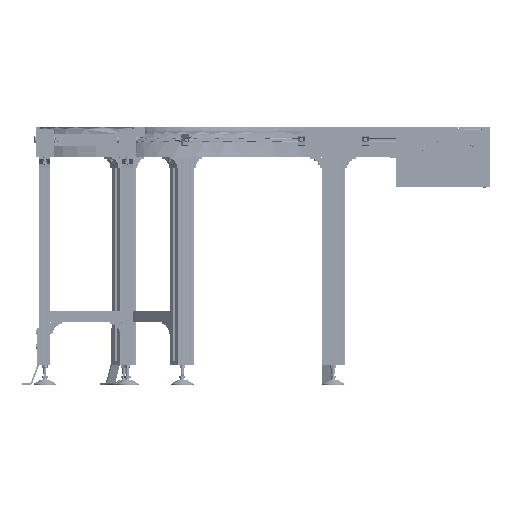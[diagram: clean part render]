
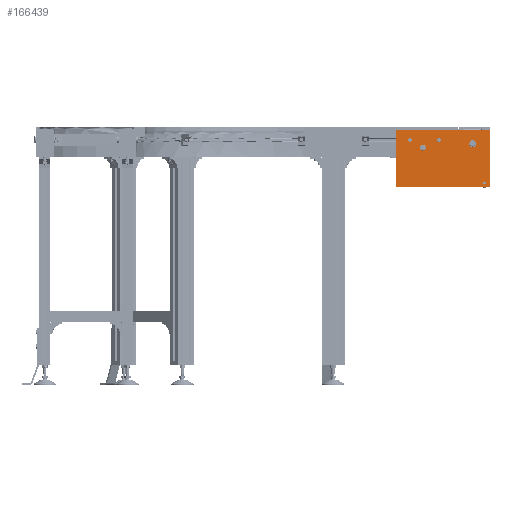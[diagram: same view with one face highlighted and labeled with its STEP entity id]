
A CAD part, left-side view. The second image highlights one B-rep face of the part: STEP entity #166439.
In plain terms, the highlighted planar face has unit normal (-1, 0, 0).
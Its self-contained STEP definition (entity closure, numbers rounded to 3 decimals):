
#7932=LINE('',#253353,#24029);
#7944=LINE('',#253389,#24041);
#7945=LINE('',#253391,#24042);
#7946=LINE('',#253392,#24043);
#24029=VECTOR('',#202781,330.);
#24041=VECTOR('',#202807,200.);
#24042=VECTOR('',#202808,200.);
#24043=VECTOR('',#202809,330.);
#36195=PLANE('',#177064);
#42484=FACE_BOUND('',#55768,.T.);
#42485=FACE_BOUND('',#55769,.T.);
#42486=FACE_BOUND('',#55770,.T.);
#42487=FACE_BOUND('',#55771,.T.);
#42488=FACE_BOUND('',#55772,.T.);
#46531=FACE_OUTER_BOUND('',#55767,.T.);
#55767=EDGE_LOOP('',(#122288,#122289,#122290,#122291));
#55768=EDGE_LOOP('',(#122292));
#55769=EDGE_LOOP('',(#122293));
#55770=EDGE_LOOP('',(#122294));
#55771=EDGE_LOOP('',(#122295));
#55772=EDGE_LOOP('',(#122296));
#64284=CIRCLE('',#176929,10.);
#64331=CIRCLE('',#177028,5.);
#64348=CIRCLE('',#177065,6.5);
#64349=CIRCLE('',#177066,6.5);
#64350=CIRCLE('',#177067,10.);
#73945=VERTEX_POINT('',#253025);
#74019=VERTEX_POINT('',#253246);
#74044=VERTEX_POINT('',#253350);
#74045=VERTEX_POINT('',#253352);
#74062=VERTEX_POINT('',#253388);
#74063=VERTEX_POINT('',#253390);
#74064=VERTEX_POINT('',#253393);
#74065=VERTEX_POINT('',#253395);
#74066=VERTEX_POINT('',#253397);
#91928=EDGE_CURVE('',#73945,#73945,#64284,.T.);
#92023=EDGE_CURVE('',#74019,#74019,#64331,.T.);
#92060=EDGE_CURVE('',#74045,#74044,#7932,.T.);
#92078=EDGE_CURVE('',#74062,#74045,#7944,.T.);
#92079=EDGE_CURVE('',#74044,#74063,#7945,.T.);
#92080=EDGE_CURVE('',#74063,#74062,#7946,.T.);
#92081=EDGE_CURVE('',#74064,#74064,#64348,.T.);
#92082=EDGE_CURVE('',#74065,#74065,#64349,.T.);
#92083=EDGE_CURVE('',#74066,#74066,#64350,.T.);
#122288=ORIENTED_EDGE('',*,*,#92078,.T.);
#122289=ORIENTED_EDGE('',*,*,#92060,.T.);
#122290=ORIENTED_EDGE('',*,*,#92079,.T.);
#122291=ORIENTED_EDGE('',*,*,#92080,.T.);
#122292=ORIENTED_EDGE('',*,*,#91928,.T.);
#122293=ORIENTED_EDGE('',*,*,#92023,.T.);
#122294=ORIENTED_EDGE('',*,*,#92081,.T.);
#122295=ORIENTED_EDGE('',*,*,#92082,.F.);
#122296=ORIENTED_EDGE('',*,*,#92083,.F.);
#166439=ADVANCED_FACE('',(#46531,#42484,#42485,#42486,#42487,#42488),#36195,
 .T.);
#176929=AXIS2_PLACEMENT_3D('',#253026,#202461,#202462);
#177028=AXIS2_PLACEMENT_3D('',#253247,#202707,#202708);
#177064=AXIS2_PLACEMENT_3D('',#253387,#202805,#202806);
#177065=AXIS2_PLACEMENT_3D('',#253394,#202810,#202811);
#177066=AXIS2_PLACEMENT_3D('',#253396,#202812,#202813);
#177067=AXIS2_PLACEMENT_3D('',#253398,#202814,#202815);
#202461=DIRECTION('center_axis',(1.,0.,0.));
#202462=DIRECTION('ref_axis',(0.,0.431,-0.902));
#202707=DIRECTION('center_axis',(1.,0.,0.));
#202708=DIRECTION('ref_axis',(0.,1.,0.));
#202781=DIRECTION('',(0.,1.,0.));
#202805=DIRECTION('center_axis',(-1.,0.,0.));
#202806=DIRECTION('ref_axis',(0.,-1.,0.));
#202807=DIRECTION('',(0.,0.,1.));
#202808=DIRECTION('',(0.,0.,-1.));
#202809=DIRECTION('',(0.,-1.,0.));
#202810=DIRECTION('center_axis',(1.,0.,0.));
#202811=DIRECTION('ref_axis',(0.,1.,0.));
#202812=DIRECTION('center_axis',(-1.,0.,0.));
#202813=DIRECTION('ref_axis',(0.,1.,0.));
#202814=DIRECTION('center_axis',(-1.,0.,0.));
#202815=DIRECTION('ref_axis',(0.,-0.108,0.994));
#253025=CARTESIAN_POINT('',(1147.8,-1361.311,55.723));
#253026=CARTESIAN_POINT('Origin',(1147.8,-1357.,46.7));
#253246=CARTESIAN_POINT('',(1147.8,-1394.,-91.05));
#253247=CARTESIAN_POINT('Origin',(1147.8,-1399.,-91.05));
#253350=CARTESIAN_POINT('',(1147.8,-1088.,96.45));
#253352=CARTESIAN_POINT('',(1147.8,-1418.,96.45));
#253353=CARTESIAN_POINT('',(1147.8,-1253.,96.45));
#253387=CARTESIAN_POINT('Origin',(1147.8,-1253.,-3.55));
#253388=CARTESIAN_POINT('',(1147.8,-1418.,-103.55));
#253389=CARTESIAN_POINT('',(1147.8,-1418.,-3.55));
#253390=CARTESIAN_POINT('',(1147.8,-1088.,-103.55));
#253391=CARTESIAN_POINT('',(1147.8,-1088.,-3.55));
#253392=CARTESIAN_POINT('',(1147.8,-1253.,-103.55));
#253393=CARTESIAN_POINT('',(1147.8,-1231.5,59.975));
#253394=CARTESIAN_POINT('Origin',(1147.8,-1238.,59.975));
#253395=CARTESIAN_POINT('',(1147.8,-1131.5,59.975));
#253396=CARTESIAN_POINT('Origin',(1147.8,-1138.,59.975));
#253397=CARTESIAN_POINT('',(1147.8,-1183.078,42.642));
#253398=CARTESIAN_POINT('Origin',(1147.8,-1182.,32.7));
